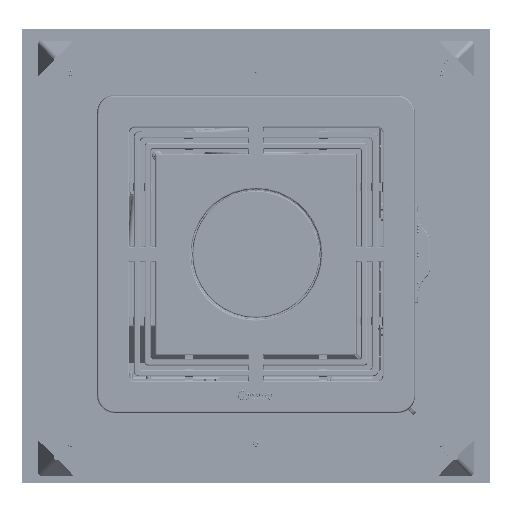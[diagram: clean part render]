
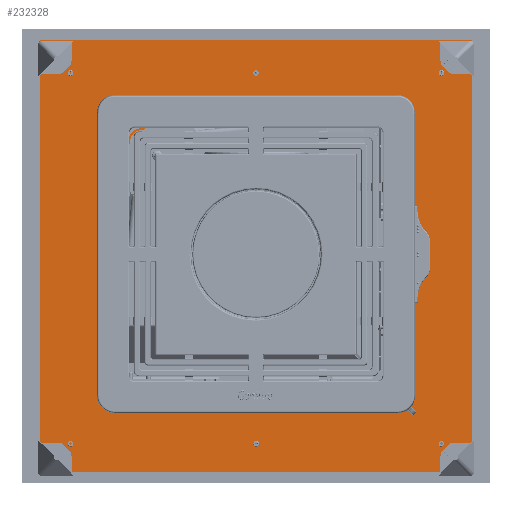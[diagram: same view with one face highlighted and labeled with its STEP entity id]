
A CAD part, top view. The second image highlights one B-rep face of the part: STEP entity #232328.
In plain terms, the highlighted planar face has unit normal (0, 0, 1) as drawn and (0, 0, -1) by its records, which use the part's own axes.
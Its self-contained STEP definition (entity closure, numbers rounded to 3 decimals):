
#39651=ORIENTED_EDGE('',*,*,#100462,.F.);
#39652=ORIENTED_EDGE('',*,*,#100472,.F.);
#39653=ORIENTED_EDGE('',*,*,#100469,.F.);
#39654=ORIENTED_EDGE('',*,*,#100466,.F.);
#100462=EDGE_CURVE('',#132197,#132198,#155433,.T.);
#100466=EDGE_CURVE('',#132198,#132201,#155437,.T.);
#100469=EDGE_CURVE('',#132201,#132203,#155440,.T.);
#100472=EDGE_CURVE('',#132203,#132197,#155443,.T.);
#132197=VERTEX_POINT('',#361813);
#132198=VERTEX_POINT('',#361814);
#132201=VERTEX_POINT('',#361822);
#132203=VERTEX_POINT('',#361828);
#155433=LINE('',#361812,#175839);
#155437=LINE('',#361821,#175843);
#155440=LINE('',#361827,#175846);
#155443=LINE('',#361833,#175849);
#175839=VECTOR('',#289197,1000.);
#175843=VECTOR('',#289203,1000.);
#175846=VECTOR('',#289208,1000.);
#175849=VECTOR('',#289213,1000.);
#193324=EDGE_LOOP('',(#39651,#39652,#39653,#39654));
#209699=FACE_BOUND('',#193324,.T.);
#224857=PLANE('',#254663);
#232328=ADVANCED_FACE('',(#209699),#224857,.F.);
#254663=AXIS2_PLACEMENT_3D('',#361836,#289217,#289218);
#289197=DIRECTION('',(0.,-1.,0.));
#289203=DIRECTION('',(1.,0.,0.));
#289208=DIRECTION('',(0.,1.,0.));
#289213=DIRECTION('',(-1.,0.,0.));
#289217=DIRECTION('',(0.,0.,1.));
#289218=DIRECTION('',(1.,0.,0.));
#361812=CARTESIAN_POINT('',(-300.,300.,0.));
#361813=CARTESIAN_POINT('',(-300.,300.,0.));
#361814=CARTESIAN_POINT('',(-300.,-300.,0.));
#361821=CARTESIAN_POINT('',(-300.,-300.,0.));
#361822=CARTESIAN_POINT('',(300.,-300.,0.));
#361827=CARTESIAN_POINT('',(300.,-300.,0.));
#361828=CARTESIAN_POINT('',(300.,300.,0.));
#361833=CARTESIAN_POINT('',(300.,300.,0.));
#361836=CARTESIAN_POINT('',(-300.,-300.,0.));
